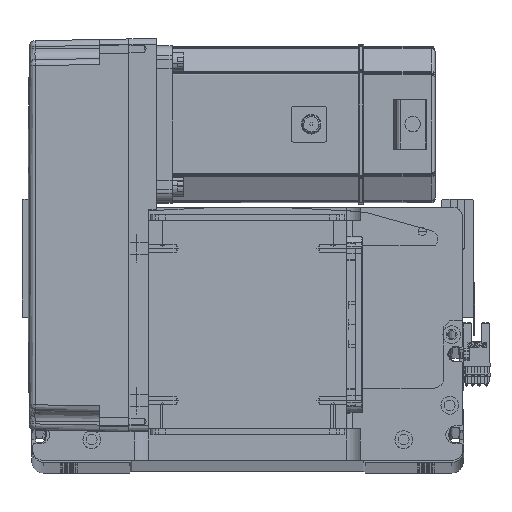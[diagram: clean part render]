
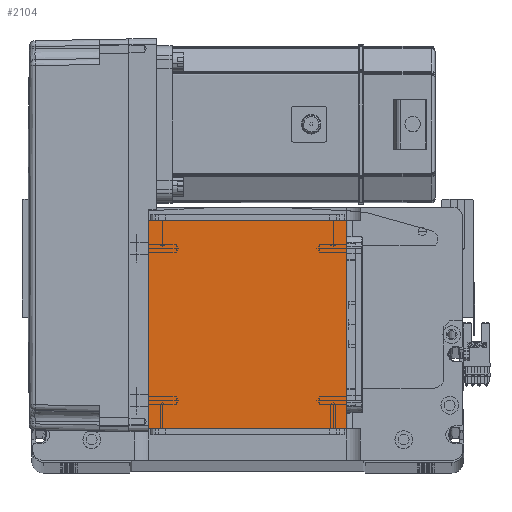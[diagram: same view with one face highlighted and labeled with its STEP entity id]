
A CAD part, top view. The second image highlights one B-rep face of the part: STEP entity #2104.
In plain terms, the highlighted planar face has unit normal (0, 0, 1).
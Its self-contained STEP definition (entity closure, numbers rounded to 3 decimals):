
#446 = CARTESIAN_POINT ( 'NONE',  ( -50.5, 16., 115. ) ) ;
#2104 = ADVANCED_FACE ( 'NONE', ( #41623 ), #17834, .T. ) ;
#4015 = CARTESIAN_POINT ( 'NONE',  ( 0., 0., 115. ) ) ;
#7166 = CARTESIAN_POINT ( 'NONE',  ( -50.5, 122., 115. ) ) ;
#8360 = DIRECTION ( 'NONE',  ( 1., 0., 0. ) ) ;
#8766 = ORIENTED_EDGE ( 'NONE', *, *, #25271, .T. ) ;
#9149 = LINE ( 'NONE', #7166, #9881 ) ;
#9288 = CARTESIAN_POINT ( 'NONE',  ( -50.5, 16., 115. ) ) ;
#9406 = CARTESIAN_POINT ( 'NONE',  ( -50.5, 122., 115. ) ) ;
#9881 = VECTOR ( 'NONE', #43465, 1000. ) ;
#11689 = VERTEX_POINT ( 'NONE', #48391 ) ;
#15272 = DIRECTION ( 'NONE',  ( -1., 0., 0. ) ) ;
#16258 = VECTOR ( 'NONE', #15272, 1000. ) ;
#17834 = PLANE ( 'NONE',  #27794 ) ;
#18380 = DIRECTION ( 'NONE',  ( 1., 0., 0. ) ) ;
#21234 = CARTESIAN_POINT ( 'NONE',  ( 50.5, 122., 115. ) ) ;
#25271 = EDGE_CURVE ( 'NONE', #34345, #25695, #29932, .T. ) ;
#25695 = VERTEX_POINT ( 'NONE', #30279 ) ;
#25847 = VERTEX_POINT ( 'NONE', #9406 ) ;
#26466 = EDGE_CURVE ( 'NONE', #11689, #25847, #52555, .T. ) ;
#27572 = EDGE_CURVE ( 'NONE', #25847, #34345, #9149, .T. ) ;
#27794 = AXIS2_PLACEMENT_3D ( 'NONE', #4015, #53853, #8360 ) ;
#27812 = ORIENTED_EDGE ( 'NONE', *, *, #26466, .T. ) ;
#27858 = EDGE_LOOP ( 'NONE', ( #35795, #8766, #34392, #27812 ) ) ;
#29417 = VECTOR ( 'NONE', #43719, 1000. ) ;
#29932 = LINE ( 'NONE', #9288, #40609 ) ;
#30279 = CARTESIAN_POINT ( 'NONE',  ( 50.5, 16., 115. ) ) ;
#34345 = VERTEX_POINT ( 'NONE', #446 ) ;
#34392 = ORIENTED_EDGE ( 'NONE', *, *, #36325, .T. ) ;
#35795 = ORIENTED_EDGE ( 'NONE', *, *, #27572, .T. ) ;
#36325 = EDGE_CURVE ( 'NONE', #25695, #11689, #36597, .T. ) ;
#36597 = LINE ( 'NONE', #21234, #29417 ) ;
#38110 = CARTESIAN_POINT ( 'NONE',  ( -50.5, 122., 115. ) ) ;
#40609 = VECTOR ( 'NONE', #18380, 1000. ) ;
#41623 = FACE_OUTER_BOUND ( 'NONE', #27858, .T. ) ;
#43465 = DIRECTION ( 'NONE',  ( 0., -1., 0. ) ) ;
#43719 = DIRECTION ( 'NONE',  ( 0., 1., 0. ) ) ;
#48391 = CARTESIAN_POINT ( 'NONE',  ( 50.5, 122., 115. ) ) ;
#52555 = LINE ( 'NONE', #38110, #16258 ) ;
#53853 = DIRECTION ( 'NONE',  ( 0., 0., 1. ) ) ;
